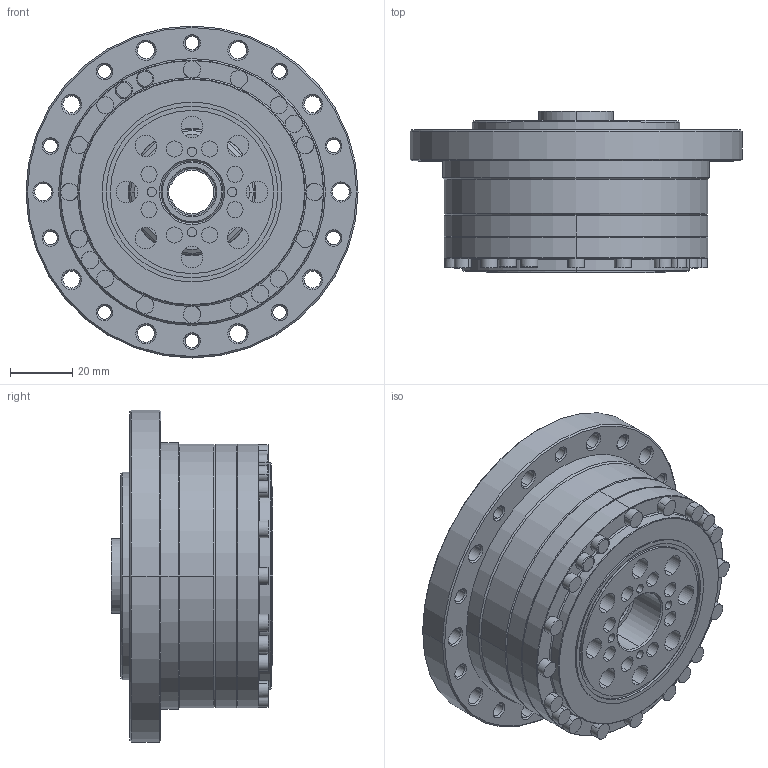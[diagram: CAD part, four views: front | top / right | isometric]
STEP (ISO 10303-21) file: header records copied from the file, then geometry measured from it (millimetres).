
FILE_DESCRIPTION((''),'2;1');
FILE_NAME('LSS-25_ASM','2017-09-16T',('Administrator'),(''),'PRO/ENGINEER BY PARAMETRIC TECHNOLOGY CORPORATION, 2014200','PRO/ENGINEER BY PARAMETRIC TECHNOLOGY CORPORATION, 2014200','');
FILE_SCHEMA(('AUTOMOTIVE_DESIGN { 1 0 10303 214 1 1 1 1 }'));
Length unit declared in the file: millimetre
Products named in the file (47): MANIFOLD_SOLID_BREP_392; MANIFOLD_SOLID_BREP_393; MANIFOLD_SOLID_BREP_394; MANIFOLD_SOLID_BREP_395; MANIFOLD_SOLID_BREP_396; MANIFOLD_SOLID_BREP_397; MANIFOLD_SOLID_BREP_398; MANIFOLD_SOLID_BREP_399; MANIFOLD_SOLID_BREP_400; MANIFOLD_SOLID_BREP_401; MANIFOLD_SOLID_BREP_402; MANIFOLD_SOLID_BREP_403; MANIFOLD_SOLID_BREP_404; MANIFOLD_SOLID_BREP_405; MANIFOLD_SOLID_BREP_406; MANIFOLD_SOLID_BREP_407; MANIFOLD_SOLID_BREP_408; MANIFOLD_SOLID_BREP_409; MANIFOLD_SOLID_BREP_410; MANIFOLD_SOLID_BREP_411; MANIFOLD_SOLID_BREP_412; MANIFOLD_SOLID_BREP_413; MANIFOLD_SOLID_BREP_414; MANIFOLD_SOLID_BREP_415; MANIFOLD_SOLID_BREP_416; MANIFOLD_SOLID_BREP_417; MANIFOLD_SOLID_BREP_418; MANIFOLD_SOLID_BREP_419; MANIFOLD_SOLID_BREP_420; MANIFOLD_SOLID_BREP_421; MANIFOLD_SOLID_BREP_422; MANIFOLD_SOLID_BREP_423; MANIFOLD_SOLID_BREP_424; MANIFOLD_SOLID_BREP_425; MANIFOLD_SOLID_BREP_426; MANIFOLD_SOLID_BREP_427; MANIFOLD_SOLID_BREP_428; MANIFOLD_SOLID_BREP_429; MANIFOLD_SOLID_BREP_430; MANIFOLD_SOLID_BREP_431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
Assembly tree (46 placements, depth 3):
  LSS-25_ASM
    ADMI7ED1CHEZ_ASM
      MANIFOLD_SOLID_BREP_392
      MANIFOLD_SOLID_BREP_393
      MANIFOLD_SOLID_BREP_394
      MANIFOLD_SOLID_BREP_395
      MANIFOLD_SOLID_BREP_396
      MANIFOLD_SOLID_BREP_397
      MANIFOLD_SOLID_BREP_398
      MANIFOLD_SOLID_BREP_399
      MANIFOLD_SOLID_BREP_400
      MANIFOLD_SOLID_BREP_401
      MANIFOLD_SOLID_BREP_402
      MANIFOLD_SOLID_BREP_403
      MANIFOLD_SOLID_BREP_404
      MANIFOLD_SOLID_BREP_405
      MANIFOLD_SOLID_BREP_406
      MANIFOLD_SOLID_BREP_407
      MANIFOLD_SOLID_BREP_408
      MANIFOLD_SOLID_BREP_409
      MANIFOLD_SOLID_BREP_410
      MANIFOLD_SOLID_BREP_411
      MANIFOLD_SOLID_BREP_412
      MANIFOLD_SOLID_BREP_413
      MANIFOLD_SOLID_BREP_414
      MANIFOLD_SOLID_BREP_415
      MANIFOLD_SOLID_BREP_416
      MANIFOLD_SOLID_BREP_417
      MANIFOLD_SOLID_BREP_418
      MANIFOLD_SOLID_BREP_419
      MANIFOLD_SOLID_BREP_420
      MANIFOLD_SOLID_BREP_421
      MANIFOLD_SOLID_BREP_422
      MANIFOLD_SOLID_BREP_423
      MANIFOLD_SOLID_BREP_424
      MANIFOLD_SOLID_BREP_425
      MANIFOLD_SOLID_BREP_426
      MANIFOLD_SOLID_BREP_427
      MANIFOLD_SOLID_BREP_428
      MANIFOLD_SOLID_BREP_429
      MANIFOLD_SOLID_BREP_430
      MANIFOLD_SOLID_BREP_431
      MANIFOLD_SOLID_BREP_432
      MANIFOLD_SOLID_BREP_433
      MANIFOLD_SOLID_BREP_434
      MANIFOLD_SOLID_BREP_435
      MANIFOLD_SOLID_BREP_436
Bounding box: 107 x 52 x 107 mm (x, y, z)
Volume: 219963 mm3; surface area: 92188.4 mm2
Topology: 45 solids, 45 shells, 845 faces, 2434 edges, 1570 vertices
Faces by surface type: cylinder 385, cone 210, plane 136, sphere 68, torus 42, revolution 4
Entity records: 38289 total; most frequent: DIRECTION 5768, CARTESIAN_POINT 5328, ORIENTED_EDGE 4524, AXIS2_PLACEMENT_3D 2557, PRESENTATION_STYLE_ASSIGNMENT 2307, STYLED_ITEM 2307, CURVE_STYLE 2262, EDGE_CURVE 2262
